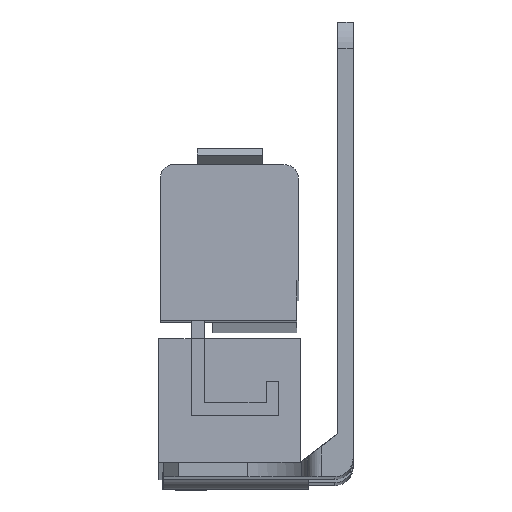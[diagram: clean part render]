
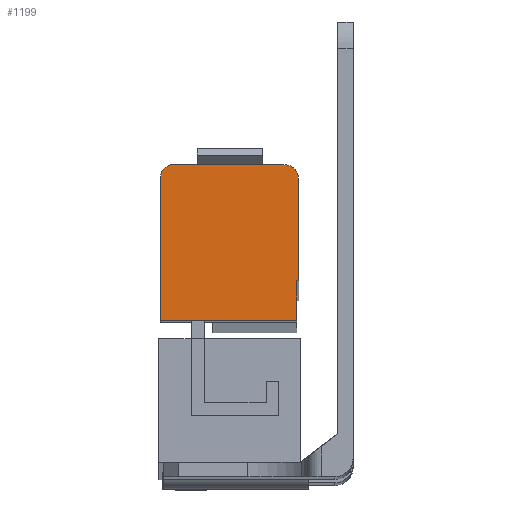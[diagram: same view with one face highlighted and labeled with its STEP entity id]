
A CAD part, front view. The second image highlights one B-rep face of the part: STEP entity #1199.
In plain terms, the highlighted planar face has unit normal (0, -1, 0.005).
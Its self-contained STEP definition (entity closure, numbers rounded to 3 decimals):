
#48 = VERTEX_POINT ( 'NONE', #308 ) ;
#52 = VERTEX_POINT ( 'NONE', #312 ) ;
#55 = VERTEX_POINT ( 'NONE', #315 ) ;
#56 = VERTEX_POINT ( 'NONE', #316 ) ;
#61 = VERTEX_POINT ( 'NONE', #321 ) ;
#71 = VERTEX_POINT ( 'NONE', #331 ) ;
#72 = VERTEX_POINT ( 'NONE', #332 ) ;
#76 = VERTEX_POINT ( 'NONE', #336 ) ;
#308 = CARTESIAN_POINT ( 'NONE',  ( -7.75, -22.287, -26.175 ) ) ;
#312 = CARTESIAN_POINT ( 'NONE',  ( -24.75, -22.174, -4.675 ) ) ;
#315 = CARTESIAN_POINT ( 'NONE',  ( -9.55, -22.174, -4.675 ) ) ;
#316 = CARTESIAN_POINT ( 'NONE',  ( -26.5, -22.183, -6.425 ) ) ;
#321 = CARTESIAN_POINT ( 'NONE',  ( -26.5, -22.287, -26.175 ) ) ;
#331 = CARTESIAN_POINT ( 'NONE',  ( -7.5, -22.185, -6.725 ) ) ;
#332 = CARTESIAN_POINT ( 'NONE',  ( -7.5, -22.258, -20.675 ) ) ;
#336 = CARTESIAN_POINT ( 'NONE',  ( -7.75, -22.258, -20.675 ) ) ;
#1001 = PLANE ( 'NONE',  #2233 ) ;
#1002 = CARTESIAN_POINT ( 'NONE',  ( -24.75, -22.183, -6.425 ) ) ;
#1003 = DIRECTION ( 'NONE',  ( 0., -1., 0.005 ) ) ;
#1004 = DIRECTION ( 'NONE',  ( 0., -0.005, -1. ) ) ;
#1199 = ADVANCED_FACE ( 'NONE', ( #1528 ), #1001, .T. ) ;
#1528 = FACE_OUTER_BOUND ( 'NONE', #3354, .T. ) ;
#2147 = LINE ( 'NONE', #3036, #2148 ) ;
#2148 = VECTOR ( 'NONE', #3037, 1000. ) ;
#2154 = CIRCLE ( 'NONE', #2354, 2.05 ) ;
#2160 = LINE ( 'NONE', #3051, #2161 ) ;
#2161 = VECTOR ( 'NONE', #3052, 1000. ) ;
#2167 = CIRCLE ( 'NONE', #2355, 1.75 ) ;
#2173 = LINE ( 'NONE', #3066, #2174 ) ;
#2174 = VECTOR ( 'NONE', #3067, 1000. ) ;
#2175 = LINE ( 'NONE', #3068, #2176 ) ;
#2176 = VECTOR ( 'NONE', #3069, 1000. ) ;
#2181 = LINE ( 'NONE', #3074, #2182 ) ;
#2182 = VECTOR ( 'NONE', #3075, 1000. ) ;
#2183 = LINE ( 'NONE', #3076, #2184 ) ;
#2184 = VECTOR ( 'NONE', #3077, 1000. ) ;
#2233 = AXIS2_PLACEMENT_3D ( 'NONE', #1002, #1003, #1004 ) ;
#2354 = AXIS2_PLACEMENT_3D ( 'NONE', #3042, #3043, #3044 ) ;
#2355 = AXIS2_PLACEMENT_3D ( 'NONE', #3057, #3058, #3059 ) ;
#3036 = CARTESIAN_POINT ( 'NONE',  ( -7.5, -22.185, -6.725 ) ) ;
#3037 = DIRECTION ( 'NONE',  ( 0., 0.005, 1. ) ) ;
#3042 = CARTESIAN_POINT ( 'NONE',  ( -9.55, -22.185, -6.725 ) ) ;
#3043 = DIRECTION ( 'NONE',  ( 0., -1., 0.005 ) ) ;
#3044 = DIRECTION ( 'NONE',  ( 0., 0.005, 1. ) ) ;
#3051 = CARTESIAN_POINT ( 'NONE',  ( -24.75, -22.174, -4.675 ) ) ;
#3052 = DIRECTION ( 'NONE',  ( -1., 0., 0. ) ) ;
#3057 = CARTESIAN_POINT ( 'NONE',  ( -24.75, -22.183, -6.425 ) ) ;
#3058 = DIRECTION ( 'NONE',  ( 0., -1., 0.005 ) ) ;
#3059 = DIRECTION ( 'NONE',  ( 0., -0.005, -1. ) ) ;
#3066 = CARTESIAN_POINT ( 'NONE',  ( -26.5, -22.183, -6.425 ) ) ;
#3067 = DIRECTION ( 'NONE',  ( 0., -0.005, -1. ) ) ;
#3068 = CARTESIAN_POINT ( 'NONE',  ( -26.5, -22.258, -20.675 ) ) ;
#3069 = DIRECTION ( 'NONE',  ( 1., 0., 0. ) ) ;
#3074 = CARTESIAN_POINT ( 'NONE',  ( -7.75, -22.287, -26.175 ) ) ;
#3075 = DIRECTION ( 'NONE',  ( 1., 0., 0. ) ) ;
#3076 = CARTESIAN_POINT ( 'NONE',  ( -7.75, -22.287, -26.175 ) ) ;
#3077 = DIRECTION ( 'NONE',  ( 0., 0.005, 1. ) ) ;
#3354 = EDGE_LOOP ( 'NONE', ( #3599, #3600, #3601, #3602, #3603, #3604, #3605, #3606 ) ) ;
#3599 = ORIENTED_EDGE ( 'NONE', *, *, #4578, .T. ) ;
#3600 = ORIENTED_EDGE ( 'NONE', *, *, #4581, .T. ) ;
#3601 = ORIENTED_EDGE ( 'NONE', *, *, #4585, .T. ) ;
#3602 = ORIENTED_EDGE ( 'NONE', *, *, #4588, .T. ) ;
#3603 = ORIENTED_EDGE ( 'NONE', *, *, #4592, .T. ) ;
#3604 = ORIENTED_EDGE ( 'NONE', *, *, #4596, .T. ) ;
#3605 = ORIENTED_EDGE ( 'NONE', *, *, #4597, .T. ) ;
#3606 = ORIENTED_EDGE ( 'NONE', *, *, #4593, .T. ) ;
#4578 = EDGE_CURVE ( 'NONE', #72, #71, #2147, .T. ) ;
#4581 = EDGE_CURVE ( 'NONE', #71, #55, #2154, .T. ) ;
#4585 = EDGE_CURVE ( 'NONE', #55, #52, #2160, .T. ) ;
#4588 = EDGE_CURVE ( 'NONE', #52, #56, #2167, .T. ) ;
#4592 = EDGE_CURVE ( 'NONE', #56, #61, #2173, .T. ) ;
#4593 = EDGE_CURVE ( 'NONE', #76, #72, #2175, .T. ) ;
#4596 = EDGE_CURVE ( 'NONE', #61, #48, #2181, .T. ) ;
#4597 = EDGE_CURVE ( 'NONE', #48, #76, #2183, .T. ) ;
